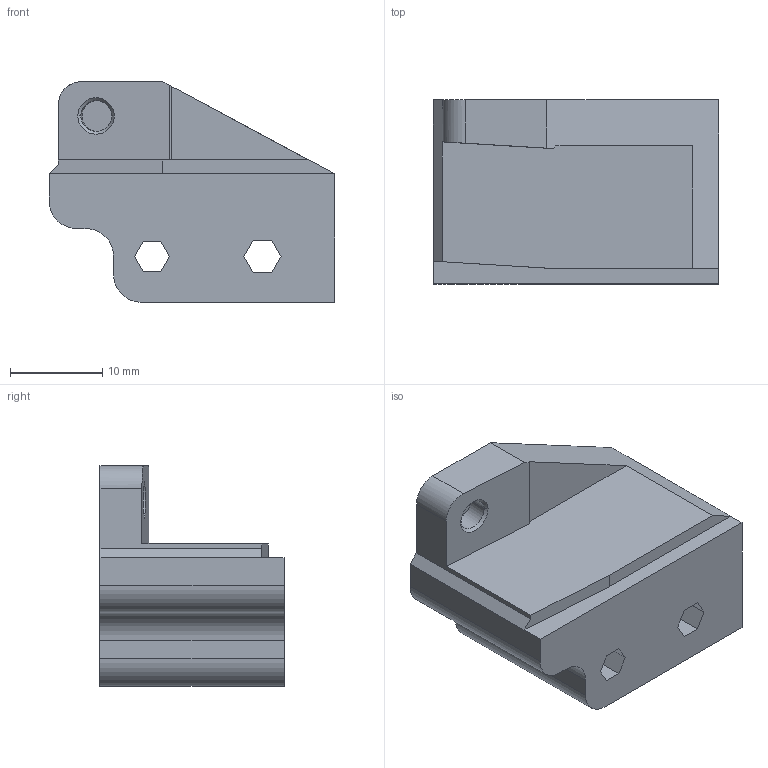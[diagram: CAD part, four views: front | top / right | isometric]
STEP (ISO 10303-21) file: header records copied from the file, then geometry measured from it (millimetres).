
FILE_DESCRIPTION (( 'STEP AP203' ), '1' );
FILE_NAME ('迍蟈嘐隅諶.STEP', '2024-01-02T07:37:48', ( '' ), ( '' ), 'SwSTEP 2.0', 'SolidWorks 2014', '' );
FILE_SCHEMA (( 'CONFIG_CONTROL_DESIGN' ));
Length unit declared in the file: millimetre
Products named in the file (1): 迍蟈嘐隅諶
Bounding box: 31.03 x 20 x 23.97 mm (x, y, z)
Volume: 8420.5 mm3; surface area: 3498.9 mm2
Topology: 1 solids, 1 shells, 49 faces, 124 edges, 80 vertices
Faces by surface type: plane 33, cylinder 10, cone 6
Entity records: 1544 total; most frequent: CARTESIAN_POINT 257, DIRECTION 248, ORIENTED_EDGE 248, EDGE_CURVE 124, VECTOR 98, LINE 98, VERTEX_POINT 80, AXIS2_PLACEMENT_3D 75
